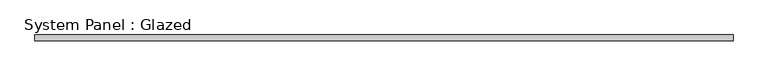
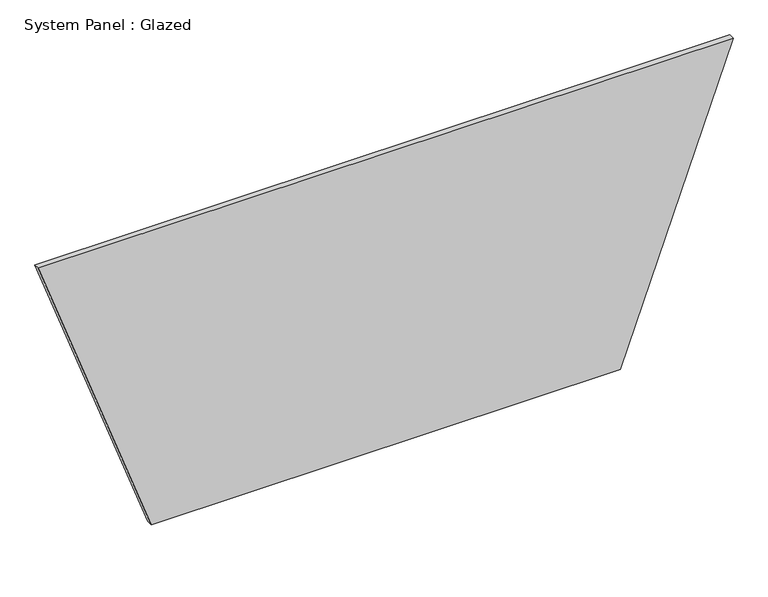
"""IFC4 building model written with IfcOpenShell, lengths in millimetres: plate geometry, System Panel : Glazed."""

from ifc_helpers import new_model, si_unit, frame, origin, place, context, project, spatial, polyline, outline, extrude, source, transform, mapped, element, save


def system_panel_glazed_1f3aabbd(model_context):
    return source(origin(), model_context, "Body", "SweptSolid", [
        extrude(outline(polyline([(0.0, -1025.3696405), (0.0, 1025.3696405), (1359.9749763, 1519.0499001), (1359.9749763, -1519.0499001), (0.0, -1025.3696405)])), frame((0.0, -49.5, 0.0), z_axis=(0.0, 1.0, 0.0), x_axis=(0.0, 0.0, 1.0)), (0.0, 0.0, 1.0), 25.0),
    ])


if __name__ == "__main__":
    model = new_model("IFC4")
    model_context = context("Model", 3, world=origin())
    ifc_project = project(units=[si_unit("LENGTHUNIT", "METRE", prefix="MILLI")], contexts=[model_context])
    site = spatial("IfcSite", under=ifc_project)
    building = spatial("IfcBuilding", under=site)
    placement = place(None, origin())
    system_panel_glazed_shape = system_panel_glazed_1f3aabbd(model_context)
    element("IfcPlate", 1, ObjectType="System Panel : Glazed", at=placement, inside=building, context=model_context, shape_type="MappedRepresentation", body=[
        mapped(system_panel_glazed_shape, transform((0.0, 0.0, 0.0), x_axis=(1.0, 0.0, 0.0), y_axis=(0.0, 1.0, 0.0), z_axis=(0.0, 0.0, 1.0))),
    ])
    save(model, "model.ifc")
